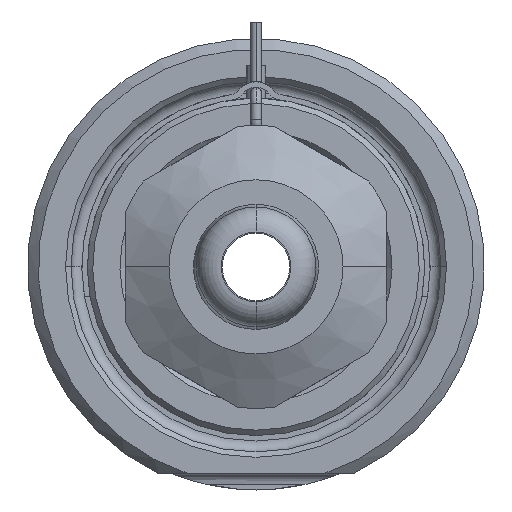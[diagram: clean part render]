
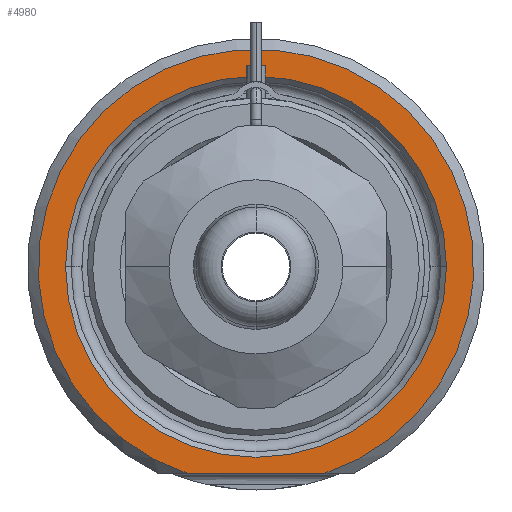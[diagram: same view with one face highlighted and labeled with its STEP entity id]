
A CAD part, front view. The second image highlights one B-rep face of the part: STEP entity #4980.
In plain terms, the highlighted planar face has unit normal (0, -1, 0).
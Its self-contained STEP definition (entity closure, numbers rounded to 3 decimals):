
#1554=DIRECTION('',(1.,0.,0.));
#1555=VECTOR('',#1554,12.49);
#1556=CARTESIAN_POINT('',(-6.245,0.,-19.));
#1557=LINE('',#1556,#1555);
#1558=CARTESIAN_POINT('',(0.,0.,0.));
#1559=DIRECTION('',(0.,1.,0.));
#1560=DIRECTION('',(-1.,0.,0.));
#1561=AXIS2_PLACEMENT_3D('',#1558,#1559,#1560);
#1563=CARTESIAN_POINT('',(0.,0.,0.));
#1564=DIRECTION('',(0.,1.,0.));
#1565=DIRECTION('',(1.,0.,0.));
#1566=AXIS2_PLACEMENT_3D('',#1563,#1564,#1565);
#1672=CARTESIAN_POINT('',(0.,0.,0.));
#1673=DIRECTION('',(0.,-1.,0.));
#1674=DIRECTION('',(0.312,0.,-0.95));
#1675=AXIS2_PLACEMENT_3D('',#1672,#1673,#1674);
#2686=CARTESIAN_POINT('',(-17.5,0.,0.));
#2687=CARTESIAN_POINT('',(17.5,0.,0.));
#2688=VERTEX_POINT('',#2686);
#2689=VERTEX_POINT('',#2687);
#2744=CARTESIAN_POINT('',(-6.245,0.,-19.));
#2745=CARTESIAN_POINT('',(6.245,0.,-19.));
#2746=VERTEX_POINT('',#2744);
#2747=VERTEX_POINT('',#2745);
#4964=CARTESIAN_POINT('',(0.,0.,0.));
#4965=DIRECTION('',(0.,-1.,0.));
#4966=DIRECTION('',(1.,0.,0.));
#4967=AXIS2_PLACEMENT_3D('',#4964,#4965,#4966);
#4968=PLANE('',#4967);
#4970=ORIENTED_EDGE('',*,*,#4969,.F.);
#4972=ORIENTED_EDGE('',*,*,#4971,.F.);
#4973=EDGE_LOOP('',(#4970,#4972));
#4974=FACE_OUTER_BOUND('',#4973,.F.);
#4975=ORIENTED_EDGE('',*,*,#4954,.F.);
#4977=ORIENTED_EDGE('',*,*,#4976,.F.);
#4978=EDGE_LOOP('',(#4975,#4977));
#4979=FACE_BOUND('',#4978,.F.);
#4980=ADVANCED_FACE('',(#4974,#4979),#4968,.T.);
#1562=CIRCLE('',#1561,17.5);
#1567=CIRCLE('',#1566,17.5);
#1676=CIRCLE('',#1675,20.);
#4954=EDGE_CURVE('',#2688,#2689,#1562,.T.);
#4969=EDGE_CURVE('',#2746,#2747,#1557,.T.);
#4971=EDGE_CURVE('',#2747,#2746,#1676,.T.);
#4976=EDGE_CURVE('',#2689,#2688,#1567,.T.);
